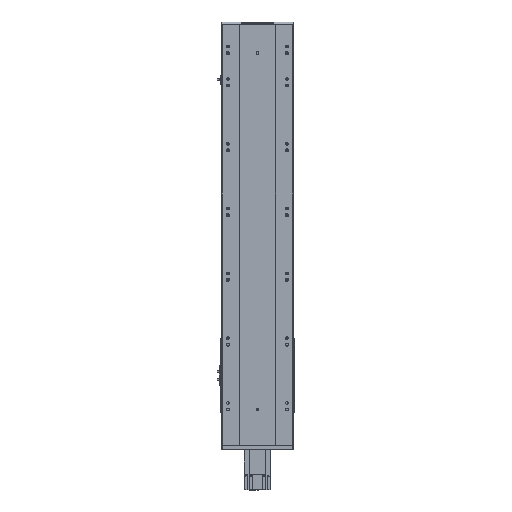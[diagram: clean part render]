
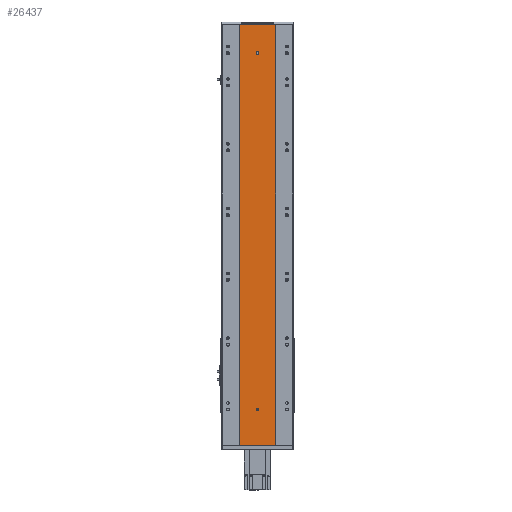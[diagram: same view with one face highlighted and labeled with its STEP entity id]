
A CAD part, top view. The second image highlights one B-rep face of the part: STEP entity #26437.
In plain terms, the highlighted planar face has unit normal (0, 0, 1).
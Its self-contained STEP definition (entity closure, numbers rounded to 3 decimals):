
#250 = CARTESIAN_POINT ( 'NONE',  ( -55., 1297., 58. ) ) ;
#937 = EDGE_CURVE ( 'NONE', #23162, #21488, #24875, .T. ) ;
#1050 = FACE_BOUND ( 'NONE', #23062, .T. ) ;
#1588 = DIRECTION ( 'NONE',  ( 0., -1., 0. ) ) ;
#2527 = AXIS2_PLACEMENT_3D ( 'NONE', #17113, #19669, #8279 ) ;
#2680 = DIRECTION ( 'NONE',  ( 1., 0., 0. ) ) ;
#3037 = CARTESIAN_POINT ( 'NONE',  ( 0., 1211., 58. ) ) ;
#3236 = DIRECTION ( 'NONE',  ( 0., 0., 1. ) ) ;
#3715 = EDGE_LOOP ( 'NONE', ( #4977, #10781, #22589, #7389 ) ) ;
#4023 = VERTEX_POINT ( 'NONE', #4361 ) ;
#4361 = CARTESIAN_POINT ( 'NONE',  ( 4., 110., 58. ) ) ;
#4858 = DIRECTION ( 'NONE',  ( -1., 0., 0. ) ) ;
#4905 = CARTESIAN_POINT ( 'NONE',  ( -4., 1209., 58. ) ) ;
#4977 = ORIENTED_EDGE ( 'NONE', *, *, #10669, .F. ) ;
#5104 = VECTOR ( 'NONE', #23673, 1000. ) ;
#5315 = AXIS2_PLACEMENT_3D ( 'NONE', #250, #24782, #4858 ) ;
#5327 = EDGE_LOOP ( 'NONE', ( #26001, #27119, #11475, #18522 ) ) ;
#5740 = CARTESIAN_POINT ( 'NONE',  ( -4., 1209., 58. ) ) ;
#5758 = VECTOR ( 'NONE', #16062, 1000. ) ;
#6708 = VERTEX_POINT ( 'NONE', #22696 ) ;
#7389 = ORIENTED_EDGE ( 'NONE', *, *, #10701, .F. ) ;
#7599 = VECTOR ( 'NONE', #14600, 1000. ) ;
#7683 = EDGE_CURVE ( 'NONE', #4023, #8184, #19200, .T. ) ;
#8004 = VECTOR ( 'NONE', #11661, 1000. ) ;
#8184 = VERTEX_POINT ( 'NONE', #15547 ) ;
#8225 = VECTOR ( 'NONE', #1588, 1000. ) ;
#8279 = DIRECTION ( 'NONE',  ( 1., 0., 0. ) ) ;
#9133 = EDGE_CURVE ( 'NONE', #20584, #12257, #26201, .T. ) ;
#9291 = LINE ( 'NONE', #15118, #5104 ) ;
#9305 = CARTESIAN_POINT ( 'NONE',  ( 0., 110., 58. ) ) ;
#9701 = VECTOR ( 'NONE', #10200, 1000. ) ;
#9862 = ORIENTED_EDGE ( 'NONE', *, *, #13478, .F. ) ;
#10183 = AXIS2_PLACEMENT_3D ( 'NONE', #9305, #20102, #15577 ) ;
#10200 = DIRECTION ( 'NONE',  ( 0., -1., 0. ) ) ;
#10314 = EDGE_CURVE ( 'NONE', #20584, #6708, #24733, .T. ) ;
#10582 = CARTESIAN_POINT ( 'NONE',  ( -55., 1297., 58. ) ) ;
#10669 = EDGE_CURVE ( 'NONE', #24281, #10958, #16269, .T. ) ;
#10701 = EDGE_CURVE ( 'NONE', #10958, #23162, #21876, .T. ) ;
#10781 = ORIENTED_EDGE ( 'NONE', *, *, #22442, .F. ) ;
#10958 = VERTEX_POINT ( 'NONE', #26253 ) ;
#11304 = ORIENTED_EDGE ( 'NONE', *, *, #7683, .F. ) ;
#11475 = ORIENTED_EDGE ( 'NONE', *, *, #9133, .F. ) ;
#11658 = CARTESIAN_POINT ( 'NONE',  ( 4., 1209., 58. ) ) ;
#11661 = DIRECTION ( 'NONE',  ( 0., -1., 0. ) ) ;
#11697 = DIRECTION ( 'NONE',  ( 0., 0., 1. ) ) ;
#12257 = VERTEX_POINT ( 'NONE', #16684 ) ;
#12418 = CARTESIAN_POINT ( 'NONE',  ( 55., 0., 58. ) ) ;
#12512 = AXIS2_PLACEMENT_3D ( 'NONE', #3037, #3236, #23019 ) ;
#12555 = CARTESIAN_POINT ( 'NONE',  ( 55., 1297., 58. ) ) ;
#12960 = CARTESIAN_POINT ( 'NONE',  ( 4., 1209., 58. ) ) ;
#13478 = EDGE_CURVE ( 'NONE', #8184, #4023, #27758, .T. ) ;
#14600 = DIRECTION ( 'NONE',  ( 1., 0., 0. ) ) ;
#14697 = FACE_OUTER_BOUND ( 'NONE', #5327, .T. ) ;
#15118 = CARTESIAN_POINT ( 'NONE',  ( -55., 0., 58. ) ) ;
#15459 = CARTESIAN_POINT ( 'NONE',  ( -4., 1211., 58. ) ) ;
#15547 = CARTESIAN_POINT ( 'NONE',  ( -4., 110., 58. ) ) ;
#15577 = DIRECTION ( 'NONE',  ( 1., 0., 0. ) ) ;
#16062 = DIRECTION ( 'NONE',  ( 0., 1., 0. ) ) ;
#16269 = LINE ( 'NONE', #11658, #5758 ) ;
#16681 = CARTESIAN_POINT ( 'NONE',  ( -55., 1297., 58. ) ) ;
#16684 = CARTESIAN_POINT ( 'NONE',  ( 55., 1297., 58. ) ) ;
#17113 = CARTESIAN_POINT ( 'NONE',  ( 0., 110., 58. ) ) ;
#17944 = CARTESIAN_POINT ( 'NONE',  ( -55., 1297., 58. ) ) ;
#18522 = ORIENTED_EDGE ( 'NONE', *, *, #10314, .T. ) ;
#19103 = EDGE_CURVE ( 'NONE', #12257, #21455, #22701, .T. ) ;
#19200 = CIRCLE ( 'NONE', #10183, 4. ) ;
#19669 = DIRECTION ( 'NONE',  ( 0., 0., 1. ) ) ;
#19917 = EDGE_CURVE ( 'NONE', #6708, #21455, #9291, .T. ) ;
#20102 = DIRECTION ( 'NONE',  ( 0., 0., 1. ) ) ;
#20584 = VERTEX_POINT ( 'NONE', #17944 ) ;
#20807 = CARTESIAN_POINT ( 'NONE',  ( 0., 1209., 58. ) ) ;
#21199 = AXIS2_PLACEMENT_3D ( 'NONE', #20807, #11697, #2680 ) ;
#21455 = VERTEX_POINT ( 'NONE', #12418 ) ;
#21488 = VERTEX_POINT ( 'NONE', #5740 ) ;
#21770 = CIRCLE ( 'NONE', #21199, 4. ) ;
#21876 = CIRCLE ( 'NONE', #12512, 4. ) ;
#22442 = EDGE_CURVE ( 'NONE', #21488, #24281, #21770, .T. ) ;
#22589 = ORIENTED_EDGE ( 'NONE', *, *, #937, .F. ) ;
#22601 = PLANE ( 'NONE',  #5315 ) ;
#22696 = CARTESIAN_POINT ( 'NONE',  ( -55., 0., 58. ) ) ;
#22701 = LINE ( 'NONE', #12555, #9701 ) ;
#23019 = DIRECTION ( 'NONE',  ( 1., 0., 0. ) ) ;
#23062 = EDGE_LOOP ( 'NONE', ( #11304, #9862 ) ) ;
#23162 = VERTEX_POINT ( 'NONE', #15459 ) ;
#23673 = DIRECTION ( 'NONE',  ( 1., 0., 0. ) ) ;
#24281 = VERTEX_POINT ( 'NONE', #12960 ) ;
#24733 = LINE ( 'NONE', #10582, #8225 ) ;
#24782 = DIRECTION ( 'NONE',  ( 0., 0., -1. ) ) ;
#24875 = LINE ( 'NONE', #4905, #8004 ) ;
#26001 = ORIENTED_EDGE ( 'NONE', *, *, #19917, .T. ) ;
#26201 = LINE ( 'NONE', #16681, #7599 ) ;
#26253 = CARTESIAN_POINT ( 'NONE',  ( 4., 1211., 58. ) ) ;
#26437 = ADVANCED_FACE ( 'NONE', ( #1050, #28412, #14697 ), #22601, .F. ) ;
#27119 = ORIENTED_EDGE ( 'NONE', *, *, #19103, .F. ) ;
#27758 = CIRCLE ( 'NONE', #2527, 4. ) ;
#28412 = FACE_BOUND ( 'NONE', #3715, .T. ) ;
